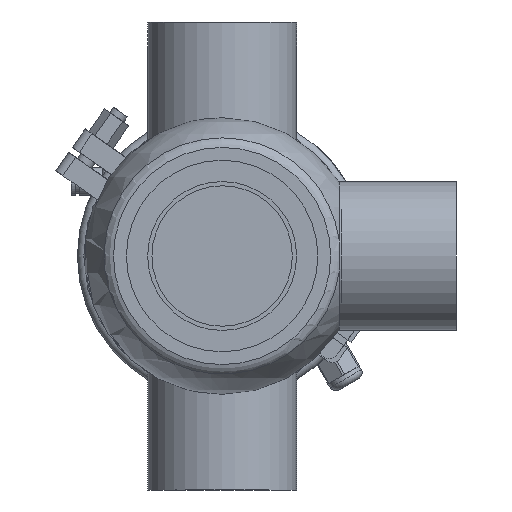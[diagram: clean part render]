
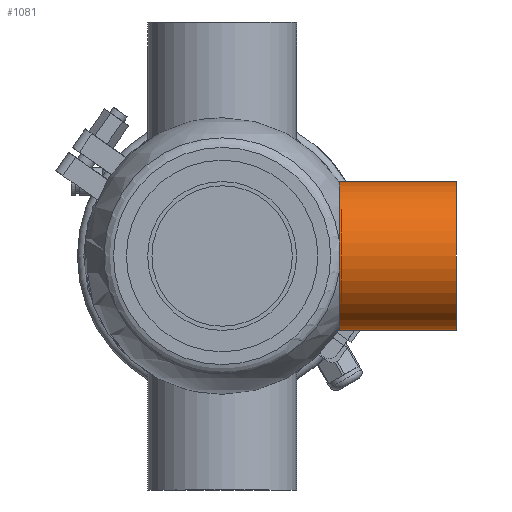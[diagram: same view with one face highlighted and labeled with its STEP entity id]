
A CAD part, front view. The second image highlights one B-rep face of the part: STEP entity #1081.
In plain terms, the highlighted cylindrical face has radius 35 mm (diameter 70 mm), a full revolution.
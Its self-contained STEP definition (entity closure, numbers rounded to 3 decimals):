
#1081 = ADVANCED_FACE ( 'NONE', ( #49495, #24918 ), #58444, .T. ) ;
#1658 = CARTESIAN_POINT ( 'NONE',  ( 0., 0., 0. ) ) ;
#6479 = EDGE_CURVE ( 'NONE', #45992, #45992, #51840, .T. ) ;
#7808 = CIRCLE ( 'NONE', #36575, 35. ) ;
#9492 = DIRECTION ( 'NONE',  ( -1., 0., 0. ) ) ;
#10139 = AXIS2_PLACEMENT_3D ( 'NONE', #42090, #9492, #47735 ) ;
#13374 = EDGE_LOOP ( 'NONE', ( #30824 ) ) ;
#15481 = DIRECTION ( 'NONE',  ( -1., 0., 0. ) ) ;
#15881 = DIRECTION ( 'NONE',  ( 0., 0., 1. ) ) ;
#20733 = DIRECTION ( 'NONE',  ( 0., 0., 1. ) ) ;
#23270 = AXIS2_PLACEMENT_3D ( 'NONE', #1658, #40092, #15881 ) ;
#24918 = FACE_OUTER_BOUND ( 'NONE', #13374, .T. ) ;
#28939 = VERTEX_POINT ( 'NONE', #48256 ) ;
#30047 = CARTESIAN_POINT ( 'NONE',  ( 110., 0., 0. ) ) ;
#30824 = ORIENTED_EDGE ( 'NONE', *, *, #6479, .F. ) ;
#36575 = AXIS2_PLACEMENT_3D ( 'NONE', #30047, #15481, #20733 ) ;
#40092 = DIRECTION ( 'NONE',  ( -1., 0., 0. ) ) ;
#41790 = ORIENTED_EDGE ( 'NONE', *, *, #50132, .T. ) ;
#42090 = CARTESIAN_POINT ( 'NONE',  ( 55., 0., 0. ) ) ;
#45992 = VERTEX_POINT ( 'NONE', #58673 ) ;
#47735 = DIRECTION ( 'NONE',  ( 0., 0., 1. ) ) ;
#48256 = CARTESIAN_POINT ( 'NONE',  ( 110., 0., 35. ) ) ;
#49495 = FACE_OUTER_BOUND ( 'NONE', #60876, .T. ) ;
#50132 = EDGE_CURVE ( 'NONE', #28939, #28939, #7808, .T. ) ;
#51840 = CIRCLE ( 'NONE', #10139, 35. ) ;
#58444 = CYLINDRICAL_SURFACE ( 'NONE', #23270, 35. ) ;
#58673 = CARTESIAN_POINT ( 'NONE',  ( 55., 0., 35. ) ) ;
#60876 = EDGE_LOOP ( 'NONE', ( #41790 ) ) ;
